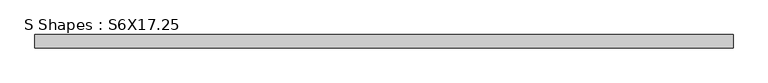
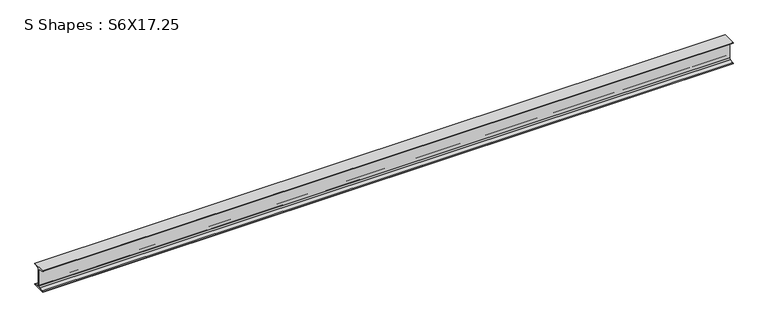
"""IFC4 building model written with IfcOpenShell, lengths in millimetres: beam geometry, S Shapes : S6X17.25."""

from ifc_helpers import new_model, si_unit, point, frame, frame_2d, origin, place, context, project, spatial, polyline, circle_curve, trimmed, segment, composite_curve, outline, extrude, source, transform, mapped, element, save


def s_shapes_s6x17_25_a5c0bde4(model_context):
    return source(origin(), model_context, "Body", "SweptSolid", [
        extrude(outline(composite_curve([segment(polyline([(-45.339, 76.2), (45.339, 76.2), (45.339, 74.2298368)]), True, "CONTINUOUS"), segment(trimmed(circle_curve(frame_2d((40.7797, 74.2298368)), 4.5593), [point((45.339, 74.2298368))], [point((41.5292458, 69.7325713))], False, "CARTESIAN"), True, "CONTINUOUS"), segment(polyline([(41.5292458, 69.7325713), (13.5250085, 65.065189)]), True, "CONTINUOUS"), segment(trimmed(circle_curve(frame_2d((15.0241, 56.0706579)), 9.1186), [point((13.5250085, 65.065189))], [point((5.9055, 56.0706579))], True, "CARTESIAN"), True, "CONTINUOUS"), segment(polyline([(5.9055, 56.0706579), (5.9055, -56.0706579)]), True, "CONTINUOUS"), segment(trimmed(circle_curve(frame_2d((15.0241, -56.0706579)), 9.1186), [point((5.9055, -56.0706579))], [point((13.5250085, -65.065189))], True, "CARTESIAN"), True, "CONTINUOUS"), segment(polyline([(13.5250085, -65.065189), (41.5292458, -69.7325713)]), True, "CONTINUOUS"), segment(trimmed(circle_curve(frame_2d((40.7797, -74.2298368)), 4.5593), [point((41.5292458, -69.7325713))], [point((45.339, -74.2298368))], False, "CARTESIAN"), True, "CONTINUOUS"), segment(polyline([(45.339, -74.2298368), (45.339, -76.2), (-45.339, -76.2), (-45.339, -74.2298368)]), True, "CONTINUOUS"), segment(trimmed(circle_curve(frame_2d((-40.7797, -74.2298368)), 4.5593), [point((-45.339, -74.2298368))], [point((-41.5292458, -69.7325713))], False, "CARTESIAN"), True, "CONTINUOUS"), segment(polyline([(-41.5292458, -69.7325713), (-13.5250085, -65.065189)]), True, "CONTINUOUS"), segment(trimmed(circle_curve(frame_2d((-15.0241, -56.0706579)), 9.1186), [point((-13.5250085, -65.065189))], [point((-5.9055, -56.0706579))], True, "CARTESIAN"), True, "CONTINUOUS"), segment(polyline([(-5.9055, -56.0706579), (-5.9055, 56.0706579)]), True, "CONTINUOUS"), segment(trimmed(circle_curve(frame_2d((-15.0241, 56.0706579)), 9.1186), [point((-5.9055, 56.0706579))], [point((-13.5250085, 65.065189))], True, "CARTESIAN"), True, "CONTINUOUS"), segment(polyline([(-13.5250085, 65.065189), (-41.5292458, 69.7325713)]), True, "CONTINUOUS"), segment(trimmed(circle_curve(frame_2d((-40.7797, 74.2298368)), 4.5593), [point((-41.5292458, 69.7325713))], [point((-45.339, 74.2298368))], False, "CARTESIAN"), True, "CONTINUOUS"), segment(polyline([(-45.339, 74.2298368), (-45.339, 76.2)]), True, "CONTINUOUS")], self_intersect=False)), frame((-2334.9, 0.0, 0.0), z_axis=(1.0, 0.0, 0.0), x_axis=(0.0, 1.0, 0.0)), (0.0, 0.0, 1.0), 4669.8),
    ])


if __name__ == "__main__":
    model = new_model("IFC4")
    model_context = context("Model", 3, world=origin())
    ifc_project = project(units=[si_unit("LENGTHUNIT", "METRE", prefix="MILLI")], contexts=[model_context])
    site = spatial("IfcSite", under=ifc_project)
    building = spatial("IfcBuilding", under=site)
    placement = place(None, origin())
    s_shapes_s6x17_25_shape = s_shapes_s6x17_25_a5c0bde4(model_context)
    element("IfcBeam", 1, ObjectType="S Shapes : S6X17.25", at=placement, inside=building, context=model_context, shape_type="MappedRepresentation", body=[
        mapped(s_shapes_s6x17_25_shape, transform((0.0, 0.0, 0.0), x_axis=(1.0, 0.0, 0.0), y_axis=(0.0, 1.0, 0.0), z_axis=(0.0, 0.0, 1.0))),
    ])
    save(model, "model.ifc")
